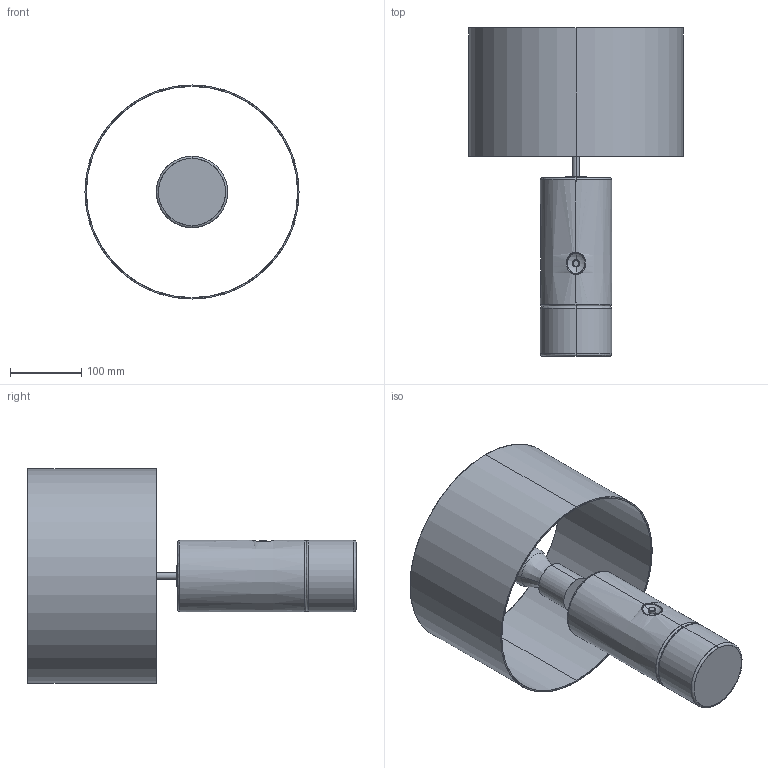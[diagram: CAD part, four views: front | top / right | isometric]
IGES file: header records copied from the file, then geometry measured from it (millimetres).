
Start section: SolidWorks IGES file using analytic representation for surfaces
Global section: file name: C:\Users\Agustin\Desktop\ARNOLD\2024 SEPTIEMBRE\3D\SANO_S1335\SANO_S1335\SANO_S1335.IGS; native system: SolidWorks 2018; preprocessor: SolidWorks 2018; author: Agustin; date: 241002.120002; units: millimetre
Bounding box: 300 x 460 x 300 mm (x, y, z)
Surface area: 483466.4 mm2 (no closed solid volume)
Topology: 0 solids, 0 shells, 55 faces, 1396 edges, 1394 vertices
Faces by surface type: bspline 31, revolution 24
